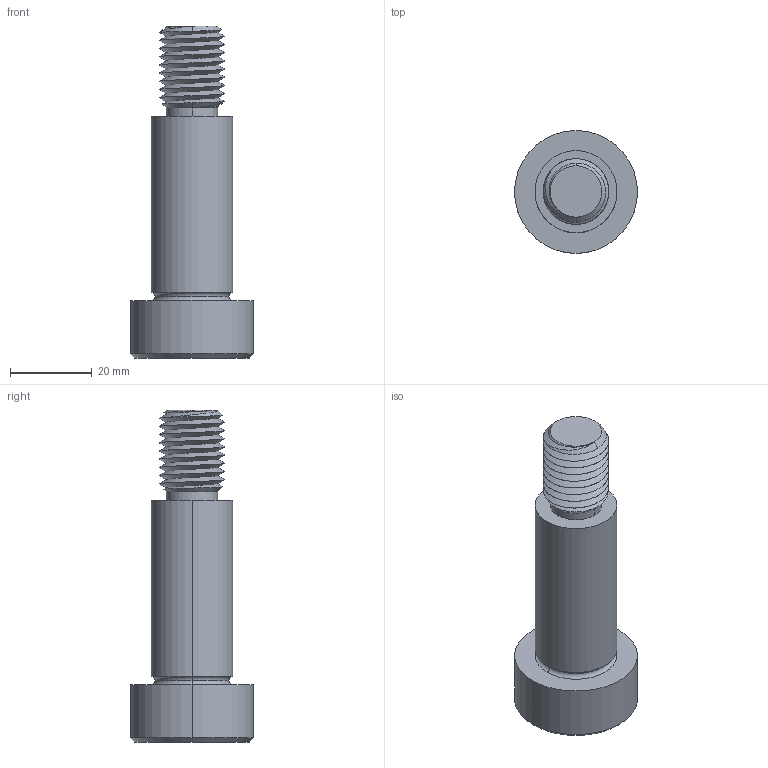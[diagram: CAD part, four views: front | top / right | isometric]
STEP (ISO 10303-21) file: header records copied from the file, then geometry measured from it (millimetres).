
FILE_DESCRIPTION (( 'STEP AP203' ), '1' );
FILE_NAME ('P0130.200-045-B2.step', '2021-11-09T22:22:33', ( '' ), ( '' ), 'SwSTEP 2.0', 'SolidWorks 2019', '' );
FILE_SCHEMA (( 'CONFIG_CONTROL_DESIGN' ));
Length unit declared in the file: millimetre
Products named in the file (1): P0130.200-045-B2
Bounding box: 30 x 30 x 81 mm (x, y, z)
Volume: 26346 mm3; surface area: 7731.3 mm2
Topology: 1 solids, 1 shells, 60 faces, 142 edges, 85 vertices
Faces by surface type: cylinder 24, plane 16, cone 14, torus 4, bspline 2
Entity records: 5678 total; most frequent: CARTESIAN_POINT 4332, ORIENTED_EDGE 280, DIRECTION 247, EDGE_CURVE 140, AXIS2_PLACEMENT_3D 99, VERTEX_POINT 85, EDGE_LOOP 63, ADVANCED_FACE 60
